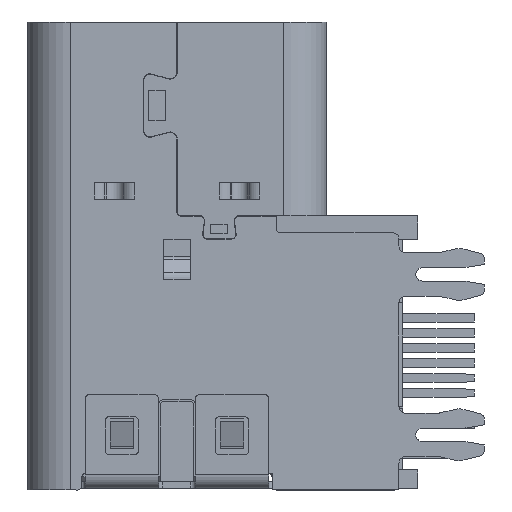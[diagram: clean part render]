
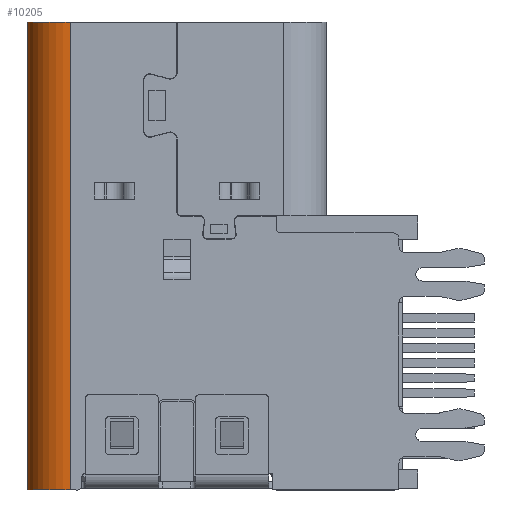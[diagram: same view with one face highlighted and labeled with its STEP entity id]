
A CAD part, left-side view. The second image highlights one B-rep face of the part: STEP entity #10205.
In plain terms, the highlighted cylindrical face has radius 1.28 mm (diameter 2.56 mm), a partial arc.
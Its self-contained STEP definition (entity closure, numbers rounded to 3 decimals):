
#599 = AXIS2_PLACEMENT_3D ( 'NONE', #36579, #12626, #24147 ) ;
#786 = DIRECTION ( 'NONE',  ( 0., 0., 1. ) ) ;
#1570 = ORIENTED_EDGE ( 'NONE', *, *, #15821, .F. ) ;
#1755 = CARTESIAN_POINT ( 'NONE',  ( -1.58, 3.19, -14. ) ) ;
#2254 = EDGE_LOOP ( 'NONE', ( #34890, #2340, #3610, #1570 ) ) ;
#2340 = ORIENTED_EDGE ( 'NONE', *, *, #26192, .T. ) ;
#3489 = CARTESIAN_POINT ( 'NONE',  ( -0.3, 4.47, 0. ) ) ;
#3610 = ORIENTED_EDGE ( 'NONE', *, *, #15607, .T. ) ;
#4619 = CARTESIAN_POINT ( 'NONE',  ( -0.3, 3.19, 0. ) ) ;
#4746 = DIRECTION ( 'NONE',  ( 0., 0., -1. ) ) ;
#5279 = DIRECTION ( 'NONE',  ( 0., 0., 1. ) ) ;
#5481 = CYLINDRICAL_SURFACE ( 'NONE', #599, 1.28 ) ;
#5888 = VERTEX_POINT ( 'NONE', #8327 ) ;
#8327 = CARTESIAN_POINT ( 'NONE',  ( -1.58, 3.19, 0. ) ) ;
#10205 = ADVANCED_FACE ( 'NONE', ( #14012 ), #5481, .T. ) ;
#11955 = CARTESIAN_POINT ( 'NONE',  ( -0.3, 4.47, -14. ) ) ;
#12626 = DIRECTION ( 'NONE',  ( 0., 0., 1. ) ) ;
#13435 = CARTESIAN_POINT ( 'NONE',  ( -1.58, 3.19, -14. ) ) ;
#14012 = FACE_OUTER_BOUND ( 'NONE', #2254, .T. ) ;
#15607 = EDGE_CURVE ( 'NONE', #5888, #16490, #22494, .T. ) ;
#15821 = EDGE_CURVE ( 'NONE', #36900, #16490, #30538, .T. ) ;
#16490 = VERTEX_POINT ( 'NONE', #3489 ) ;
#17347 = AXIS2_PLACEMENT_3D ( 'NONE', #23768, #39356, #20949 ) ;
#20912 = CARTESIAN_POINT ( 'NONE',  ( -0.3, 4.47, -14. ) ) ;
#20949 = DIRECTION ( 'NONE',  ( 1., 0., 0. ) ) ;
#22494 = CIRCLE ( 'NONE', #32970, 1.28 ) ;
#22947 = DIRECTION ( 'NONE',  ( 1., 0., 0. ) ) ;
#23768 = CARTESIAN_POINT ( 'NONE',  ( -0.3, 3.19, -14. ) ) ;
#24147 = DIRECTION ( 'NONE',  ( 1., 0., 0. ) ) ;
#26192 = EDGE_CURVE ( 'NONE', #37373, #5888, #30933, .T. ) ;
#28625 = VECTOR ( 'NONE', #5279, 1000. ) ;
#30202 = CIRCLE ( 'NONE', #17347, 1.28 ) ;
#30538 = LINE ( 'NONE', #20912, #28625 ) ;
#30933 = LINE ( 'NONE', #13435, #36641 ) ;
#32970 = AXIS2_PLACEMENT_3D ( 'NONE', #4619, #4746, #22947 ) ;
#34890 = ORIENTED_EDGE ( 'NONE', *, *, #38097, .T. ) ;
#36579 = CARTESIAN_POINT ( 'NONE',  ( -0.3, 3.19, -14. ) ) ;
#36641 = VECTOR ( 'NONE', #786, 1000. ) ;
#36900 = VERTEX_POINT ( 'NONE', #11955 ) ;
#37373 = VERTEX_POINT ( 'NONE', #1755 ) ;
#38097 = EDGE_CURVE ( 'NONE', #36900, #37373, #30202, .T. ) ;
#39356 = DIRECTION ( 'NONE',  ( 0., 0., 1. ) ) ;
